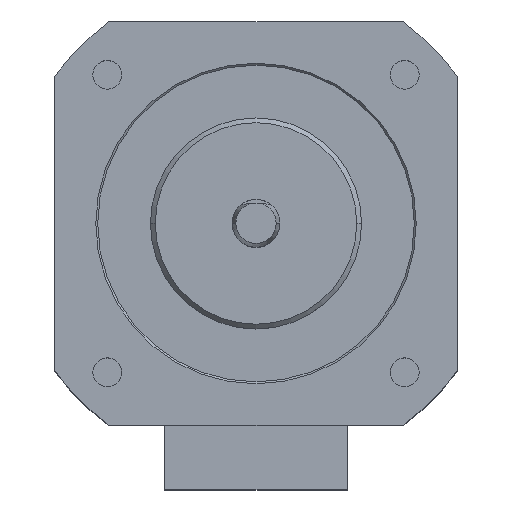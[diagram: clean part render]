
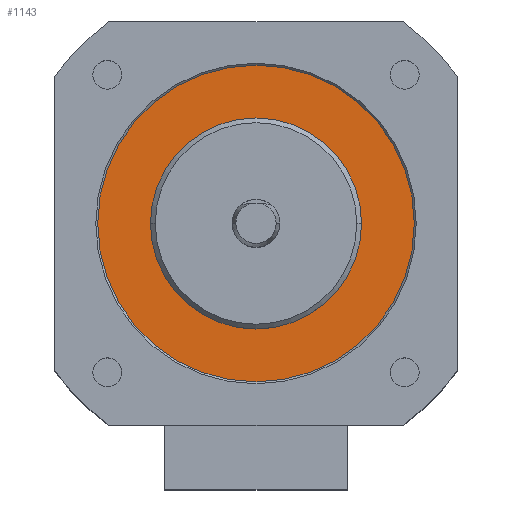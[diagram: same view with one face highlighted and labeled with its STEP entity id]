
A CAD part, top view. The second image highlights one B-rep face of the part: STEP entity #1143.
In plain terms, the highlighted planar face has unit normal (0, 0, 1).
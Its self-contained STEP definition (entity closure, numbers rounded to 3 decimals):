
#2 = DIRECTION ( 'NONE',  ( 0., 0., 1. ) ) ;
#5 = PLANE ( 'NONE',  #2261 ) ;
#65 = CARTESIAN_POINT ( 'NONE',  ( -11., 0., -2.2 ) ) ;
#69 = EDGE_CURVE ( 'NONE', #2128, #403, #1863, .T. ) ;
#209 = CARTESIAN_POINT ( 'NONE',  ( 0., 0., -2.2 ) ) ;
#249 = ORIENTED_EDGE ( 'NONE', *, *, #971, .F. ) ;
#332 = CARTESIAN_POINT ( 'NONE',  ( 0., 0., -2.2 ) ) ;
#334 = FACE_OUTER_BOUND ( 'NONE', #1677, .T. ) ;
#347 = DIRECTION ( 'NONE',  ( 0., 0., 1. ) ) ;
#403 = VERTEX_POINT ( 'NONE', #2512 ) ;
#412 = DIRECTION ( 'NONE',  ( 0., 0., 1. ) ) ;
#423 = ORIENTED_EDGE ( 'NONE', *, *, #2275, .T. ) ;
#444 = AXIS2_PLACEMENT_3D ( 'NONE', #332, #347, #531 ) ;
#531 = DIRECTION ( 'NONE',  ( 1., 0., 0. ) ) ;
#583 = DIRECTION ( 'NONE',  ( 1., 0., 0. ) ) ;
#615 = DIRECTION ( 'NONE',  ( 0., 0., 1. ) ) ;
#809 = DIRECTION ( 'NONE',  ( 0., 0., 1. ) ) ;
#864 = AXIS2_PLACEMENT_3D ( 'NONE', #1982, #615, #583 ) ;
#943 = CIRCLE ( 'NONE', #1983, 11. ) ;
#971 = EDGE_CURVE ( 'NONE', #1581, #2241, #943, .T. ) ;
#1143 = ADVANCED_FACE ( 'NONE', ( #1891, #334 ), #5, .T. ) ;
#1145 = EDGE_CURVE ( 'NONE', #2241, #1581, #1512, .T. ) ;
#1381 = ORIENTED_EDGE ( 'NONE', *, *, #1145, .F. ) ;
#1415 = CARTESIAN_POINT ( 'NONE',  ( 16.5, 0., -2.2 ) ) ;
#1512 = CIRCLE ( 'NONE', #864, 11. ) ;
#1581 = VERTEX_POINT ( 'NONE', #2420 ) ;
#1677 = EDGE_LOOP ( 'NONE', ( #2484, #423 ) ) ;
#1706 = CIRCLE ( 'NONE', #2383, 16.5 ) ;
#1774 = DIRECTION ( 'NONE',  ( 1., 0., 0. ) ) ;
#1776 = DIRECTION ( 'NONE',  ( 1., 0., 0. ) ) ;
#1863 = CIRCLE ( 'NONE', #444, 16.5 ) ;
#1891 = FACE_BOUND ( 'NONE', #2513, .T. ) ;
#1964 = CARTESIAN_POINT ( 'NONE',  ( 0., 0., -2.2 ) ) ;
#1982 = CARTESIAN_POINT ( 'NONE',  ( 0., 0., -2.2 ) ) ;
#1983 = AXIS2_PLACEMENT_3D ( 'NONE', #209, #412, #1776 ) ;
#2128 = VERTEX_POINT ( 'NONE', #1415 ) ;
#2155 = DIRECTION ( 'NONE',  ( 1., 0., 0. ) ) ;
#2159 = CARTESIAN_POINT ( 'NONE',  ( 0., 0., -2.2 ) ) ;
#2241 = VERTEX_POINT ( 'NONE', #65 ) ;
#2261 = AXIS2_PLACEMENT_3D ( 'NONE', #1964, #809, #2155 ) ;
#2275 = EDGE_CURVE ( 'NONE', #403, #2128, #1706, .T. ) ;
#2383 = AXIS2_PLACEMENT_3D ( 'NONE', #2159, #2, #1774 ) ;
#2420 = CARTESIAN_POINT ( 'NONE',  ( 11., 0., -2.2 ) ) ;
#2484 = ORIENTED_EDGE ( 'NONE', *, *, #69, .T. ) ;
#2512 = CARTESIAN_POINT ( 'NONE',  ( -16.5, 0., -2.2 ) ) ;
#2513 = EDGE_LOOP ( 'NONE', ( #249, #1381 ) ) ;
